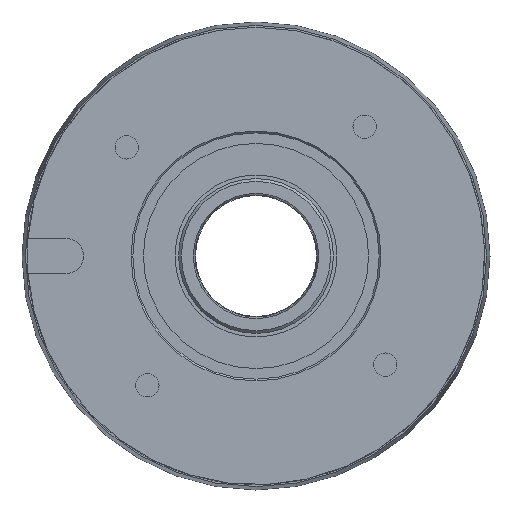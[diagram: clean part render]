
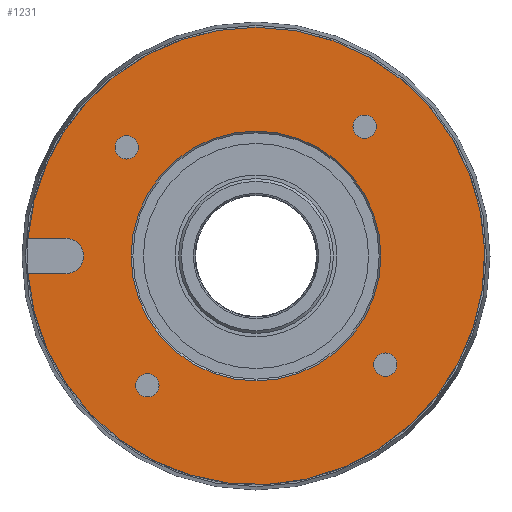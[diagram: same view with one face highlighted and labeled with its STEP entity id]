
A CAD part, left-side view. The second image highlights one B-rep face of the part: STEP entity #1231.
In plain terms, the highlighted planar face has unit normal (-1, 0, 0).
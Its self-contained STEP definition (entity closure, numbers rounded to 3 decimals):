
#30 = DIRECTION ( 'NONE',  ( -1., 0., 0. ) ) ;
#35 = CIRCLE ( 'NONE', #1350, 1.65 ) ;
#48 = EDGE_LOOP ( 'NONE', ( #99 ) ) ;
#52 = DIRECTION ( 'NONE',  ( 0., 1., 0. ) ) ;
#68 = EDGE_LOOP ( 'NONE', ( #1432 ) ) ;
#70 = VERTEX_POINT ( 'NONE', #859 ) ;
#83 = ORIENTED_EDGE ( 'NONE', *, *, #461, .F. ) ;
#99 = ORIENTED_EDGE ( 'NONE', *, *, #1486, .F. ) ;
#113 = AXIS2_PLACEMENT_3D ( 'NONE', #233, #1059, #825 ) ;
#114 = EDGE_CURVE ( 'NONE', #225, #70, #1332, .T. ) ;
#117 = EDGE_LOOP ( 'NONE', ( #1315 ) ) ;
#138 = CARTESIAN_POINT ( 'NONE',  ( 0., 27., -2.5 ) ) ;
#182 = DIRECTION ( 'NONE',  ( 0., 0., 1. ) ) ;
#200 = VERTEX_POINT ( 'NONE', #138 ) ;
#225 = VERTEX_POINT ( 'NONE', #766 ) ;
#226 = CARTESIAN_POINT ( 'NONE',  ( 0., 32.5, 0. ) ) ;
#233 = CARTESIAN_POINT ( 'NONE',  ( 0., 0., 0. ) ) ;
#248 = CIRCLE ( 'NONE', #390, 1.65 ) ;
#265 = FACE_BOUND ( 'NONE', #68, .T. ) ;
#270 = AXIS2_PLACEMENT_3D ( 'NONE', #1228, #30, #381 ) ;
#272 = EDGE_LOOP ( 'NONE', ( #311, #1354, #431, #883 ) ) ;
#281 = AXIS2_PLACEMENT_3D ( 'NONE', #290, #405, #750 ) ;
#290 = CARTESIAN_POINT ( 'NONE',  ( 0., 27., 0. ) ) ;
#302 = EDGE_CURVE ( 'NONE', #572, #572, #1165, .T. ) ;
#303 = LINE ( 'NONE', #819, #726 ) ;
#311 = ORIENTED_EDGE ( 'NONE', *, *, #114, .T. ) ;
#319 = FACE_OUTER_BOUND ( 'NONE', #272, .T. ) ;
#339 = EDGE_LOOP ( 'NONE', ( #83 ) ) ;
#355 = DIRECTION ( 'NONE',  ( 0., -1., 0. ) ) ;
#360 = FACE_BOUND ( 'NONE', #117, .T. ) ;
#362 = DIRECTION ( 'NONE',  ( 0., 1., 0. ) ) ;
#368 = AXIS2_PLACEMENT_3D ( 'NONE', #429, #1131, #1364 ) ;
#381 = DIRECTION ( 'NONE',  ( 0., 0., 1. ) ) ;
#390 = AXIS2_PLACEMENT_3D ( 'NONE', #1328, #1093, #502 ) ;
#395 = CARTESIAN_POINT ( 'NONE',  ( 0., 27., 2.5 ) ) ;
#405 = DIRECTION ( 'NONE',  ( -1., 0., 0. ) ) ;
#407 = FACE_BOUND ( 'NONE', #339, .T. ) ;
#413 = CARTESIAN_POINT ( 'NONE',  ( 0., 15.427, -18.385 ) ) ;
#429 = CARTESIAN_POINT ( 'NONE',  ( 0., -18.385, -15.427 ) ) ;
#431 = ORIENTED_EDGE ( 'NONE', *, *, #1100, .F. ) ;
#433 = CIRCLE ( 'NONE', #368, 1.65 ) ;
#461 = EDGE_CURVE ( 'NONE', #616, #616, #433, .T. ) ;
#462 = EDGE_CURVE ( 'NONE', #1444, #1444, #35, .T. ) ;
#467 = FACE_BOUND ( 'NONE', #1447, .T. ) ;
#468 = VECTOR ( 'NONE', #362, 1000. ) ;
#502 = DIRECTION ( 'NONE',  ( 0., -1., 0. ) ) ;
#507 = CARTESIAN_POINT ( 'NONE',  ( 0., -17.077, 18.385 ) ) ;
#526 = FACE_BOUND ( 'NONE', #48, .T. ) ;
#547 = LINE ( 'NONE', #949, #468 ) ;
#556 = EDGE_CURVE ( 'NONE', #1524, #70, #547, .T. ) ;
#557 = DIRECTION ( 'NONE',  ( -1., 0., 0. ) ) ;
#572 = VERTEX_POINT ( 'NONE', #880 ) ;
#578 = DIRECTION ( 'NONE',  ( 1., 0., 0. ) ) ;
#616 = VERTEX_POINT ( 'NONE', #1463 ) ;
#630 = EDGE_CURVE ( 'NONE', #225, #200, #303, .T. ) ;
#709 = ORIENTED_EDGE ( 'NONE', *, *, #302, .F. ) ;
#726 = VECTOR ( 'NONE', #355, 1000. ) ;
#750 = DIRECTION ( 'NONE',  ( 0., 0., 1. ) ) ;
#766 = CARTESIAN_POINT ( 'NONE',  ( 0., 32.404, -2.5 ) ) ;
#819 = CARTESIAN_POINT ( 'NONE',  ( 0., 38.113, -2.5 ) ) ;
#825 = DIRECTION ( 'NONE',  ( 0., 0., 1. ) ) ;
#829 = CIRCLE ( 'NONE', #281, 2.5 ) ;
#859 = CARTESIAN_POINT ( 'NONE',  ( 0., 32.404, 2.5 ) ) ;
#880 = CARTESIAN_POINT ( 'NONE',  ( 0., 17.077, -18.385 ) ) ;
#883 = ORIENTED_EDGE ( 'NONE', *, *, #630, .F. ) ;
#888 = CARTESIAN_POINT ( 'NONE',  ( 0., 18.385, 15.427 ) ) ;
#949 = CARTESIAN_POINT ( 'NONE',  ( 0., 38.113, 2.5 ) ) ;
#1059 = DIRECTION ( 'NONE',  ( -1., 0., 0. ) ) ;
#1065 = PLANE ( 'NONE',  #1241 ) ;
#1077 = DIRECTION ( 'NONE',  ( 0., 0., -1. ) ) ;
#1093 = DIRECTION ( 'NONE',  ( -1., 0., 0. ) ) ;
#1094 = AXIS2_PLACEMENT_3D ( 'NONE', #413, #1256, #52 ) ;
#1100 = EDGE_CURVE ( 'NONE', #200, #1524, #829, .T. ) ;
#1111 = CARTESIAN_POINT ( 'NONE',  ( 0., 18.385, 17.077 ) ) ;
#1131 = DIRECTION ( 'NONE',  ( -1., 0., 0. ) ) ;
#1165 = CIRCLE ( 'NONE', #1094, 1.65 ) ;
#1228 = CARTESIAN_POINT ( 'NONE',  ( 0., 0., 0. ) ) ;
#1231 = ADVANCED_FACE ( 'NONE', ( #526, #407, #467, #265, #319, #360 ), #1065, .F. ) ;
#1234 = CARTESIAN_POINT ( 'NONE',  ( 0., 0., 17.75 ) ) ;
#1241 = AXIS2_PLACEMENT_3D ( 'NONE', #226, #578, #1077 ) ;
#1256 = DIRECTION ( 'NONE',  ( -1., 0., 0. ) ) ;
#1265 = EDGE_CURVE ( 'NONE', #1403, #1403, #1492, .T. ) ;
#1315 = ORIENTED_EDGE ( 'NONE', *, *, #462, .F. ) ;
#1328 = CARTESIAN_POINT ( 'NONE',  ( 0., -15.427, 18.385 ) ) ;
#1332 = CIRCLE ( 'NONE', #270, 32.5 ) ;
#1350 = AXIS2_PLACEMENT_3D ( 'NONE', #888, #557, #182 ) ;
#1354 = ORIENTED_EDGE ( 'NONE', *, *, #556, .F. ) ;
#1364 = DIRECTION ( 'NONE',  ( 0., 0., -1. ) ) ;
#1403 = VERTEX_POINT ( 'NONE', #1234 ) ;
#1432 = ORIENTED_EDGE ( 'NONE', *, *, #1265, .F. ) ;
#1444 = VERTEX_POINT ( 'NONE', #1111 ) ;
#1447 = EDGE_LOOP ( 'NONE', ( #709 ) ) ;
#1463 = CARTESIAN_POINT ( 'NONE',  ( 0., -18.385, -17.077 ) ) ;
#1486 = EDGE_CURVE ( 'NONE', #1519, #1519, #248, .T. ) ;
#1492 = CIRCLE ( 'NONE', #113, 17.75 ) ;
#1519 = VERTEX_POINT ( 'NONE', #507 ) ;
#1524 = VERTEX_POINT ( 'NONE', #395 ) ;
